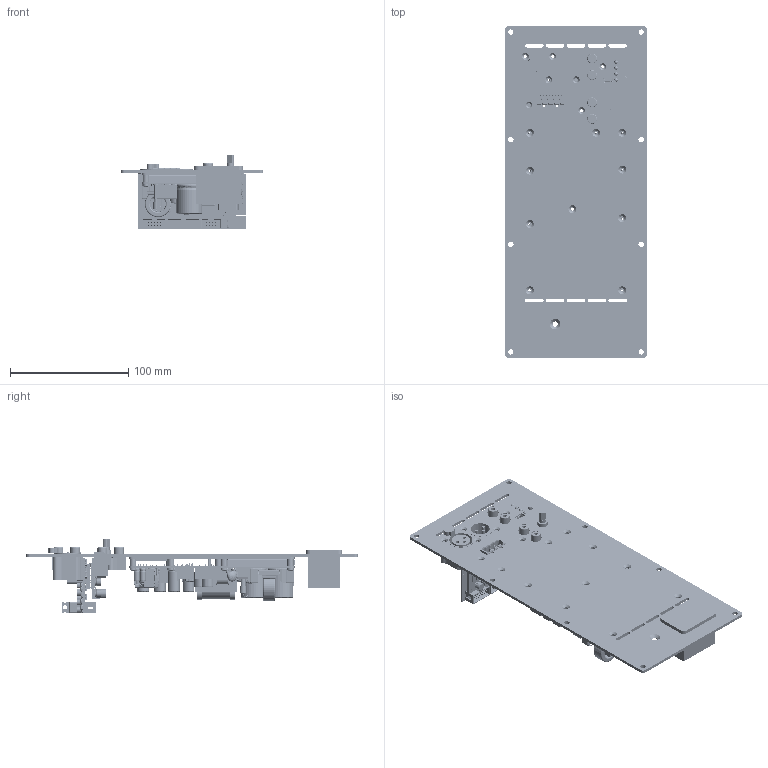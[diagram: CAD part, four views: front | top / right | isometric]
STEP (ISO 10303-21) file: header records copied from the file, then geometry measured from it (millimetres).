
FILE_DESCRIPTION (( 'STEP AP214' ), '1' );
FILE_NAME ('FusionAMP FA251 01xx.STEP', '2018-04-04T11:33:50', ( '' ), ( '' ), 'SwSTEP 2.0', 'SolidWorks 2017', '' );
FILE_SCHEMA (( 'AUTOMOTIVE_DESIGN' ));
Length unit declared in the file: millimetre
Products named in the file (6): PCBA MP-DSP Subin B01; PCBA MP-DSP Main B01; Frontplate FA251; NC250MP 01xx; FusionAMP FA251 01xx; IEC Euro Switch
Assembly tree (5 placements, depth 2):
  FusionAMP FA251 01xx
    PCBA MP-DSP Subin B01
    NC250MP 01xx
    PCBA MP-DSP Main B01
    IEC Euro Switch
    Frontplate FA251
Bounding box: 120 x 280 x 63.15 mm (x, y, z)
Volume: 125958 mm3; surface area: 226652.3 mm2
Topology: 126 solids, 726 shells, 23852 faces, 61461 edges, 38678 vertices
Faces by surface type: plane 12933, cylinder 5935, bspline 4029, torus 598, sphere 289, cone 68
Entity records: 1096964 total; most frequent: CARTESIAN_POINT 275504, ORIENTED_EDGE 117389, DIRECTION 106837, EDGE_CURVE 60480, VERTEX_POINT 38663, LINE 38615, VECTOR 38615, AXIS2_PLACEMENT_3D 34111
